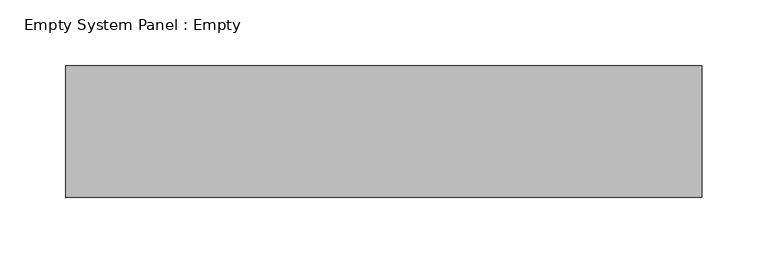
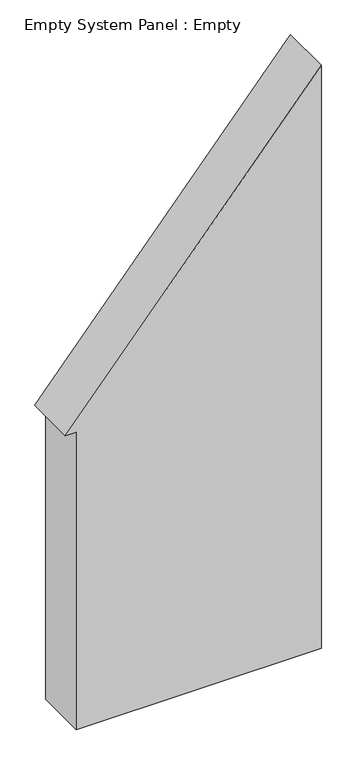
"""IFC4 building model written with IfcOpenShell, lengths in millimetres: plate geometry, Empty System Panel : Empty."""

from ifc_helpers import new_model, si_unit, frame, origin, place, context, project, spatial, polyline, outline, extrude, source, transform, mapped, element, save


def empty_system_panel_empty_c601dcac(model_context):
    return source(origin(), model_context, "Body", "SweptSolid", [
        extrude(outline(polyline([(0.0, -221.7466691), (0.0, 241.7466691), (1163.7912276, 241.7466691), (593.686971, -241.7466691), (593.686971, -221.7466691), (0.0, -221.7466691)])), frame((0.0, -50.0, 0.0), z_axis=(0.0, 1.0, 0.0), x_axis=(0.0, 0.0, 1.0)), (0.0, 0.0, 1.0), 100.0),
    ])


if __name__ == "__main__":
    model = new_model("IFC4")
    model_context = context("Model", 3, world=origin())
    ifc_project = project(units=[si_unit("LENGTHUNIT", "METRE", prefix="MILLI")], contexts=[model_context])
    site = spatial("IfcSite", under=ifc_project)
    building = spatial("IfcBuilding", under=site)
    placement = place(None, origin())
    empty_system_panel_empty_shape = empty_system_panel_empty_c601dcac(model_context)
    element("IfcPlate", 1, ObjectType="Empty System Panel : Empty", at=placement, inside=building, context=model_context, shape_type="MappedRepresentation", body=[
        mapped(empty_system_panel_empty_shape, transform((0.0, 0.0, 0.0), x_axis=(1.0, 0.0, 0.0), y_axis=(0.0, 1.0, 0.0), z_axis=(0.0, 0.0, 1.0))),
    ])
    save(model, "model.ifc")
